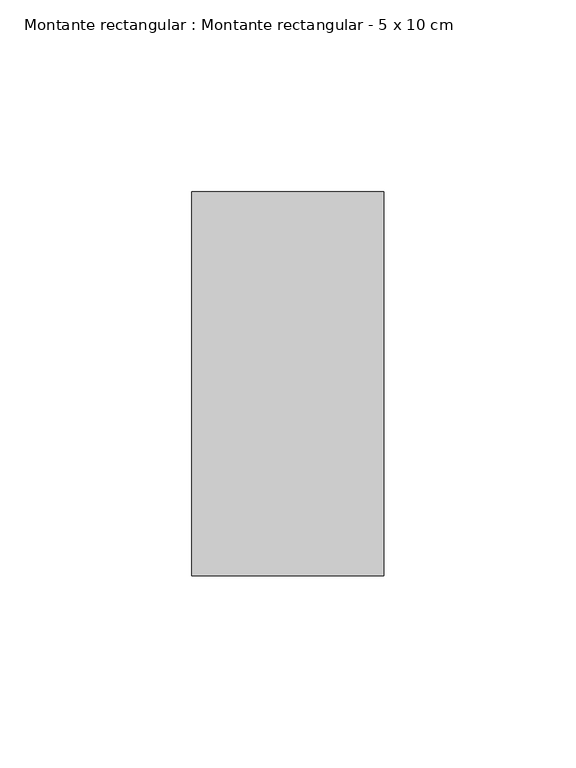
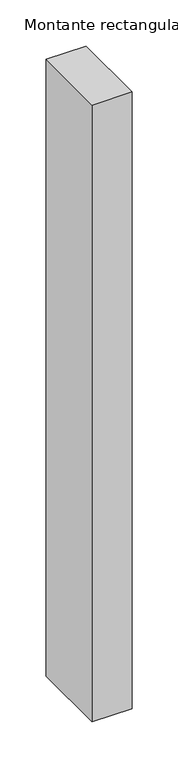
"""IFC4 building model written with IfcOpenShell, lengths in millimetres: member geometry, Montante rectangular : Montante rectangular - 5 x 10 cm."""

from ifc_helpers import new_model, si_unit, frame, origin, place, context, project, spatial, polyline, outline, extrude, source, transform, mapped, element, save


def montante_rectangular_montante_rectangular_5_x_10_cm_b5b7adec(model_context):
    return source(origin(), model_context, "Body", "SweptSolid", [
        extrude(outline(polyline([(-50.0, 50.0), (0.0, 50.0), (0.0, -50.0), (-50.0, -50.0), (-50.0, 50.0)])), frame((0.0, 0.0, -816.6666667), z_axis=(0.0, 0.0, 1.0), x_axis=(1.0, 0.0, 0.0)), (0.0, 0.0, 1.0), 816.6666667),
    ])


if __name__ == "__main__":
    model = new_model("IFC4")
    model_context = context("Model", 3, world=origin())
    ifc_project = project(units=[si_unit("LENGTHUNIT", "METRE", prefix="MILLI")], contexts=[model_context])
    site = spatial("IfcSite", under=ifc_project)
    building = spatial("IfcBuilding", under=site)
    placement = place(None, origin())
    montante_rectangular_montante_rectangular_5_x_10_cm_shape = montante_rectangular_montante_rectangular_5_x_10_cm_b5b7adec(model_context)
    element("IfcMember", 1, ObjectType="Montante rectangular : Montante rectangular - 5 x 10 cm", at=placement, inside=building, context=model_context, shape_type="MappedRepresentation", body=[
        mapped(montante_rectangular_montante_rectangular_5_x_10_cm_shape, transform((0.0, 0.0, 0.0), x_axis=(1.0, 0.0, 0.0), y_axis=(0.0, 1.0, 0.0), z_axis=(0.0, 0.0, 1.0))),
    ])
    save(model, "model.ifc")
